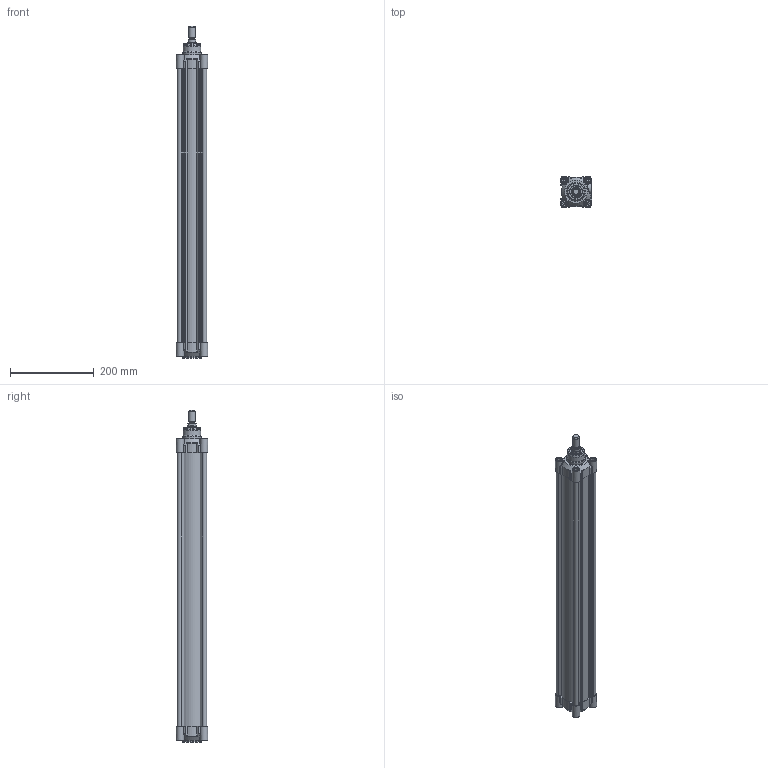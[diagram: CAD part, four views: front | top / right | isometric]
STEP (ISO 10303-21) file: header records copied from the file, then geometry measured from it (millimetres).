
FILE_DESCRIPTION(/* description */ ('CILINDRO D.E. MAGNETICO AMMORTIZZATO ISO 15552'),/* implementation_level */ '2;1');
FILE_NAME(/* name */ 'T:\Archivio Inventor\- 00 NUOVI STP PER SITO CON STELO CHE SI MUOVE\SERIE H - U\SERIE HDM\HDM063 - TUBO NUOVO\HDM063.600.GS.M.stp',/* time_stamp */ '2018-07-30T14:41:42+02:00',/* author */ ('carlo.corazza'),/* organization */ (''),/* preprocessor_version */ 'ST-DEVELOPER v16.5',/* originating_system */ 'Autodesk Inventor 2017',/* authorisation */ '');
FILE_SCHEMA (('AUTOMOTIVE_DESIGN { 1 0 10303 214 3 1 1 }'));
Length unit declared in the file: millimetre
Products named in the file (5): HDM063.600.GS.M; TP; TA; STELO-600; CORPO-600
Assembly tree (4 placements, depth 2):
  HDM063.600.GS.M
    TP
    TA
    STELO-600
    CORPO-600
Bounding box: 75 x 75 x 794 mm (x, y, z)
Volume: 1095898.4 mm3; surface area: 587756.5 mm2
Topology: 4 solids, 27 shells, 1241 faces, 2936 edges, 1818 vertices
Faces by surface type: plane 368, cylinder 297, bspline 288, torus 108, cone 106, sphere 74
Full cylindrical faces by diameter (mm): 3 x2, 3.4 x2, 4.8 x2, 5.25 x2, 6.647 x8, 8 x8, 8.3 x12, 9.8 x4, 9.9 x2, 10 x6, 12 x3, 13 x8, 13.3 x8, 13.5 x1, 14.95 x2, 16 x1, 19.5 x1, 20 x1, 20.8 x1, 20.847 x1, 24 x1, 26 x2, 30 x3, 42 x1, 45 x2, 63 x1
Entity records: 40768 total; most frequent: CARTESIAN_POINT 13071, ORIENTED_EDGE 5326, DIRECTION 5100, EDGE_CURVE 2663, AXIS2_PLACEMENT_3D 2037, VERTEX_POINT 1763, EDGE_LOOP 1576, STYLED_ITEM 1245
